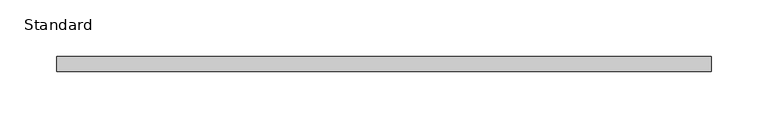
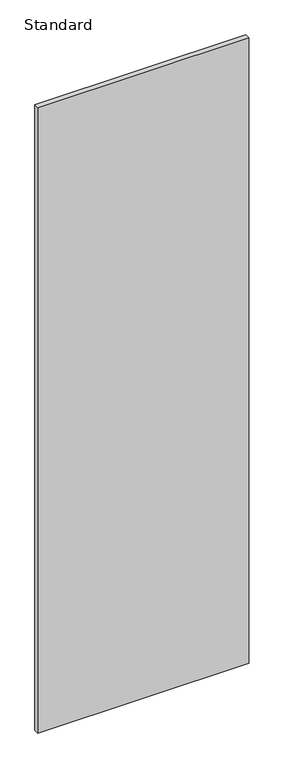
"""IFC4 building model written with IfcOpenShell, lengths in millimetres: furniture geometry, X_Partition-Compact Laminate-Duracube-Urinal : Standard."""

from ifc_helpers import new_model, si_unit, frame, origin, place, context, project, spatial, polyline, outline, extrude, source, transform, mapped, element, save


def standard_24bc576b(model_context):
    return source(origin(), model_context, "Body", "SweptSolid", [
        extrude(outline(polyline([(323.2003264, -13.0), (-251.2996736, -13.0), (-251.2996736, 0.0), (323.2003264, 0.0), (323.2003264, -13.0)])), frame((0.0, 0.0, 200.0), z_axis=(0.0, 0.0, 1.0), x_axis=(1.0, 0.0, 0.0)), (0.0, 0.0, 1.0), 1800.0),
    ])


if __name__ == "__main__":
    model = new_model("IFC4")
    model_context = context("Model", 3, world=origin())
    ifc_project = project(units=[si_unit("LENGTHUNIT", "METRE", prefix="MILLI")], contexts=[model_context])
    site = spatial("IfcSite", under=ifc_project)
    building = spatial("IfcBuilding", under=site)
    placement = place(None, origin())
    standard_shape = standard_24bc576b(model_context)
    element("IfcFurniture", 1, ObjectType="X_Partition-Compact Laminate-Duracube-Urinal : Standard", at=placement, inside=building, context=model_context, shape_type="MappedRepresentation", body=[
        mapped(standard_shape, transform((0.0, 0.0, 0.0), x_axis=(1.0, 0.0, 0.0), y_axis=(0.0, 1.0, 0.0), z_axis=(0.0, 0.0, 1.0))),
    ])
    save(model, "model.ifc")
